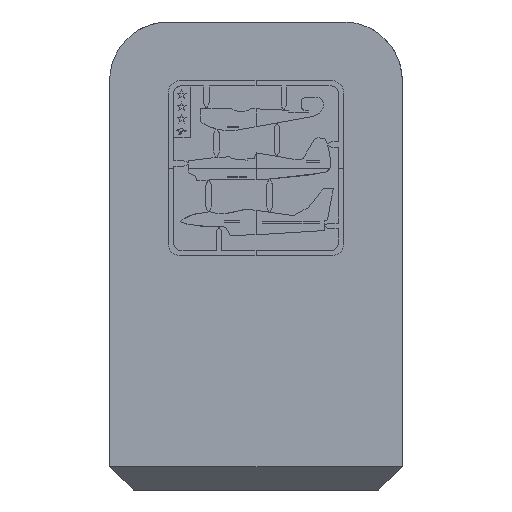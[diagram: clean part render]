
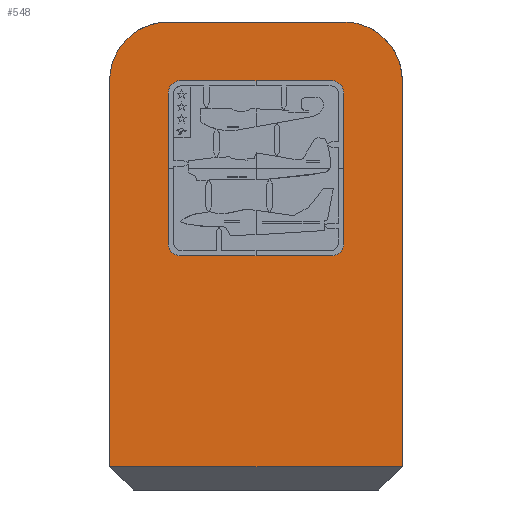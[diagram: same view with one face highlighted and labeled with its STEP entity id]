
A CAD part, left-side view. The second image highlights one B-rep face of the part: STEP entity #548.
In plain terms, the highlighted planar face has unit normal (-1, 0, 0).
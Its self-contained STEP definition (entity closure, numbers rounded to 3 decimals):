
#37=FACE_BOUND('',#2376,.T.);
#548=ADVANCED_FACE('',(#1450,#37),#14974,.T.);
#1450=FACE_OUTER_BOUND('',#2375,.T.);
#2375=EDGE_LOOP('',(#5486,#5487,#5488,#5489,#5490,#5491));
#2376=EDGE_LOOP('',(#5492,#5493,#5494,#5495,#5496,#5497,#5498,#5499,#5500,
#5501,#5502,#5503));
#5486=ORIENTED_EDGE('',*,*,#9088,.T.);
#5487=ORIENTED_EDGE('',*,*,#9089,.T.);
#5488=ORIENTED_EDGE('',*,*,#9051,.T.);
#5489=ORIENTED_EDGE('',*,*,#9043,.T.);
#5490=ORIENTED_EDGE('',*,*,#9053,.T.);
#5491=ORIENTED_EDGE('',*,*,#9045,.T.);
#5492=ORIENTED_EDGE('',*,*,#8510,.T.);
#5493=ORIENTED_EDGE('',*,*,#8938,.F.);
#5494=ORIENTED_EDGE('',*,*,#8923,.F.);
#5495=ORIENTED_EDGE('',*,*,#8924,.F.);
#5496=ORIENTED_EDGE('',*,*,#8695,.T.);
#5497=ORIENTED_EDGE('',*,*,#8723,.T.);
#5498=ORIENTED_EDGE('',*,*,#8722,.T.);
#5499=ORIENTED_EDGE('',*,*,#8833,.F.);
#5500=ORIENTED_EDGE('',*,*,#8804,.F.);
#5501=ORIENTED_EDGE('',*,*,#8805,.F.);
#5502=ORIENTED_EDGE('',*,*,#8488,.T.);
#5503=ORIENTED_EDGE('',*,*,#8487,.T.);
#8487=EDGE_CURVE('',#13149,#13150,#10889,.T.);
#8488=EDGE_CURVE('',#13244,#13149,#10890,.T.);
#8510=EDGE_CURVE('',#13150,#13234,#10912,.T.);
#8695=EDGE_CURVE('',#13318,#13274,#11073,.T.);
#8722=EDGE_CURVE('',#13298,#13308,#11100,.T.);
#8723=EDGE_CURVE('',#13274,#13298,#11101,.T.);
#8804=EDGE_CURVE('',#13353,#13354,#11182,.T.);
#8805=EDGE_CURVE('',#13244,#13353,#11183,.T.);
#8833=EDGE_CURVE('',#13354,#13308,#11211,.T.);
#8923=EDGE_CURVE('',#13429,#13430,#11301,.T.);
#8924=EDGE_CURVE('',#13318,#13429,#11302,.T.);
#8938=EDGE_CURVE('',#13430,#13234,#11316,.T.);
#9043=EDGE_CURVE('',#13496,#13495,#11421,.T.);
#9045=EDGE_CURVE('',#13498,#13523,#11423,.T.);
#9051=EDGE_CURVE('',#13492,#13496,#12135,.T.);
#9053=EDGE_CURVE('',#13495,#13498,#12137,.T.);
#9088=EDGE_CURVE('',#13523,#13527,#11461,.T.);
#9089=EDGE_CURVE('',#13527,#13492,#11462,.T.);
#10889=B_SPLINE_CURVE_WITH_KNOTS('',3,(#26299,#26300,#26301,#26302),
 .UNSPECIFIED.,.F.,.F.,(4,4),(666.796,667.796),
 .UNSPECIFIED.);
#10890=B_SPLINE_CURVE_WITH_KNOTS('',3,(#26303,#26304,#26305,#26306),
 .UNSPECIFIED.,.F.,.F.,(4,4),(569.851,666.796),
 .UNSPECIFIED.);
#10912=B_SPLINE_CURVE_WITH_KNOTS('',3,(#26394,#26395,#26396,#26397),
 .UNSPECIFIED.,.F.,.F.,(4,4),(97.945,194.89),.UNSPECIFIED.);
#11073=B_SPLINE_CURVE_WITH_KNOTS('',3,(#27269,#27270,#27271,#27272),
 .UNSPECIFIED.,.F.,.F.,(4,4),(807.847,904.792),
 .UNSPECIFIED.);
#11100=B_SPLINE_CURVE_WITH_KNOTS('',3,(#27383,#27384,#27385,#27386),
 .UNSPECIFIED.,.F.,.F.,(4,4),(105.032,201.977),.UNSPECIFIED.);
#11101=B_SPLINE_CURVE_WITH_KNOTS('',3,(#27387,#27388,#27389,#27390),
 .UNSPECIFIED.,.F.,.F.,(4,4),(104.032,105.032),.UNSPECIFIED.);
#11182=B_SPLINE_CURVE_WITH_KNOTS('',3,(#27627,#27628,#27629,#27630),
 .UNSPECIFIED.,.F.,.F.,(4,4),(-105.032,-104.032),.UNSPECIFIED.);
#11183=B_SPLINE_CURVE_WITH_KNOTS('',3,(#27631,#27632,#27633,#27634),
 .UNSPECIFIED.,.F.,.F.,(4,4),(-201.976,-105.032),.UNSPECIFIED.);
#11211=B_SPLINE_CURVE_WITH_KNOTS('',3,(#27755,#27756,#27757,#27758),
 .UNSPECIFIED.,.F.,.F.,(4,4),(-791.803,-694.858),
 .UNSPECIFIED.);
#11301=B_SPLINE_CURVE_WITH_KNOTS('',3,(#28032,#28033,#28034,#28035),
 .UNSPECIFIED.,.F.,.F.,(4,4),(-105.032,-104.032),.UNSPECIFIED.);
#11302=B_SPLINE_CURVE_WITH_KNOTS('',3,(#28036,#28037,#28038,#28039),
 .UNSPECIFIED.,.F.,.F.,(4,4),(-201.977,-105.032),.UNSPECIFIED.);
#11316=B_SPLINE_CURVE_WITH_KNOTS('',3,(#28095,#28096,#28097,#28098),
 .UNSPECIFIED.,.F.,.F.,(4,4),(-667.399,-570.454),
 .UNSPECIFIED.);
#11421=B_SPLINE_CURVE_WITH_KNOTS('',1,(#28379,#28380),.UNSPECIFIED.,.F.,
 .F.,(2,2),(16.,19.),.UNSPECIFIED.);
#11423=B_SPLINE_CURVE_WITH_KNOTS('',1,(#28383,#28384),.UNSPECIFIED.,.F.,
 .F.,(2,2),(21.,27.6),.UNSPECIFIED.);
#11461=B_SPLINE_CURVE_WITH_KNOTS('',1,(#28476,#28477),.UNSPECIFIED.,.F.,
 .F.,(2,2),(0.,5.),.UNSPECIFIED.);
#11462=B_SPLINE_CURVE_WITH_KNOTS('',1,(#28478,#28479),.UNSPECIFIED.,.F.,
 .F.,(2,2),(7.4,14.),.UNSPECIFIED.);
#12135=(
BOUNDED_CURVE()
B_SPLINE_CURVE(2,(#28396,#28397,#28398),.UNSPECIFIED.,.F.,.F.)
B_SPLINE_CURVE_WITH_KNOTS((3,3),(0.,1.571),.UNSPECIFIED.)
CURVE()
GEOMETRIC_REPRESENTATION_ITEM()
RATIONAL_B_SPLINE_CURVE((1.,0.707,1.))
REPRESENTATION_ITEM('')
);
#12137=(
BOUNDED_CURVE()
B_SPLINE_CURVE(2,(#28402,#28403,#28404),.UNSPECIFIED.,.F.,.F.)
B_SPLINE_CURVE_WITH_KNOTS((3,3),(0.,1.571),.UNSPECIFIED.)
CURVE()
GEOMETRIC_REPRESENTATION_ITEM()
RATIONAL_B_SPLINE_CURVE((1.,0.707,1.))
REPRESENTATION_ITEM('')
);
#13149=VERTEX_POINT('',#21754);
#13150=VERTEX_POINT('',#21755);
#13234=VERTEX_POINT('',#21839);
#13244=VERTEX_POINT('',#21849);
#13274=VERTEX_POINT('',#21879);
#13298=VERTEX_POINT('',#21903);
#13308=VERTEX_POINT('',#21913);
#13318=VERTEX_POINT('',#21923);
#13353=VERTEX_POINT('',#21958);
#13354=VERTEX_POINT('',#21959);
#13429=VERTEX_POINT('',#22034);
#13430=VERTEX_POINT('',#22035);
#13492=VERTEX_POINT('',#22097);
#13495=VERTEX_POINT('',#22100);
#13496=VERTEX_POINT('',#22101);
#13498=VERTEX_POINT('',#22103);
#13523=VERTEX_POINT('',#22128);
#13527=VERTEX_POINT('',#22132);
#14974=PLANE('',#15696);
#15696=AXIS2_PLACEMENT_3D('',#20329,#16388,$);
#16388=DIRECTION('',(-1.,0.,0.));
#20329=CARTESIAN_POINT('',(-13.3,2.5,-2.));
#21754=CARTESIAN_POINT('',(-13.3,1.5,6.782));
#21755=CARTESIAN_POINT('',(-13.3,1.282,7.));
#21839=CARTESIAN_POINT('',(-13.3,0.,7.));
#21849=CARTESIAN_POINT('',(-13.3,1.5,5.5));
#21879=CARTESIAN_POINT('',(-13.3,-1.5,4.217));
#21903=CARTESIAN_POINT('',(-13.3,-1.283,4.));
#21913=CARTESIAN_POINT('',(-13.3,0.,4.));
#21923=CARTESIAN_POINT('',(-13.3,-1.5,5.5));
#21958=CARTESIAN_POINT('',(-13.3,1.5,4.217));
#21959=CARTESIAN_POINT('',(-13.3,1.282,4.));
#22034=CARTESIAN_POINT('',(-13.3,-1.5,6.782));
#22035=CARTESIAN_POINT('',(-13.3,-1.283,7.));
#22097=CARTESIAN_POINT('',(-13.3,-2.5,7.));
#22100=CARTESIAN_POINT('',(-13.3,1.5,8.));
#22101=CARTESIAN_POINT('',(-13.3,-1.5,8.));
#22103=CARTESIAN_POINT('',(-13.3,2.5,7.));
#22128=CARTESIAN_POINT('',(-13.3,2.5,0.4));
#22132=CARTESIAN_POINT('',(-13.3,-2.5,0.4));
#26299=CARTESIAN_POINT('',(-13.3,1.5,6.782));
#26300=CARTESIAN_POINT('',(-13.3,1.5,6.902));
#26301=CARTESIAN_POINT('',(-13.3,1.402,7.));
#26302=CARTESIAN_POINT('',(-13.3,1.282,7.));
#26303=CARTESIAN_POINT('',(-13.3,1.5,5.5));
#26304=CARTESIAN_POINT('',(-13.3,1.5,5.927));
#26305=CARTESIAN_POINT('',(-13.3,1.5,6.355));
#26306=CARTESIAN_POINT('',(-13.3,1.5,6.782));
#26394=CARTESIAN_POINT('',(-13.3,1.282,7.));
#26395=CARTESIAN_POINT('',(-13.3,0.855,7.));
#26396=CARTESIAN_POINT('',(-13.3,0.427,7.));
#26397=CARTESIAN_POINT('',(-13.3,0.,7.));
#27269=CARTESIAN_POINT('',(-13.3,-1.5,5.5));
#27270=CARTESIAN_POINT('',(-13.3,-1.5,5.072));
#27271=CARTESIAN_POINT('',(-13.3,-1.5,4.645));
#27272=CARTESIAN_POINT('',(-13.3,-1.5,4.217));
#27383=CARTESIAN_POINT('',(-13.3,-1.283,4.));
#27384=CARTESIAN_POINT('',(-13.3,-0.855,4.));
#27385=CARTESIAN_POINT('',(-13.3,-0.428,4.));
#27386=CARTESIAN_POINT('',(-13.3,0.,4.));
#27387=CARTESIAN_POINT('',(-13.3,-1.5,4.217));
#27388=CARTESIAN_POINT('',(-13.3,-1.5,4.098));
#27389=CARTESIAN_POINT('',(-13.3,-1.402,4.));
#27390=CARTESIAN_POINT('',(-13.3,-1.283,4.));
#27627=CARTESIAN_POINT('',(-13.3,1.5,4.217));
#27628=CARTESIAN_POINT('',(-13.3,1.5,4.098));
#27629=CARTESIAN_POINT('',(-13.3,1.402,4.));
#27630=CARTESIAN_POINT('',(-13.3,1.282,4.));
#27631=CARTESIAN_POINT('',(-13.3,1.5,5.5));
#27632=CARTESIAN_POINT('',(-13.3,1.5,5.072));
#27633=CARTESIAN_POINT('',(-13.3,1.5,4.645));
#27634=CARTESIAN_POINT('',(-13.3,1.5,4.217));
#27755=CARTESIAN_POINT('',(-13.3,1.282,4.));
#27756=CARTESIAN_POINT('',(-13.3,0.855,4.));
#27757=CARTESIAN_POINT('',(-13.3,0.427,4.));
#27758=CARTESIAN_POINT('',(-13.3,0.,4.));
#28032=CARTESIAN_POINT('',(-13.3,-1.5,6.782));
#28033=CARTESIAN_POINT('',(-13.3,-1.5,6.902));
#28034=CARTESIAN_POINT('',(-13.3,-1.402,7.));
#28035=CARTESIAN_POINT('',(-13.3,-1.283,7.));
#28036=CARTESIAN_POINT('',(-13.3,-1.5,5.5));
#28037=CARTESIAN_POINT('',(-13.3,-1.5,5.927));
#28038=CARTESIAN_POINT('',(-13.3,-1.5,6.355));
#28039=CARTESIAN_POINT('',(-13.3,-1.5,6.782));
#28095=CARTESIAN_POINT('',(-13.3,-1.283,7.));
#28096=CARTESIAN_POINT('',(-13.3,-0.855,7.));
#28097=CARTESIAN_POINT('',(-13.3,-0.428,7.));
#28098=CARTESIAN_POINT('',(-13.3,0.,7.));
#28379=CARTESIAN_POINT('',(-13.3,-1.5,8.));
#28380=CARTESIAN_POINT('',(-13.3,1.5,8.));
#28383=CARTESIAN_POINT('',(-13.3,2.5,7.));
#28384=CARTESIAN_POINT('',(-13.3,2.5,0.4));
#28396=CARTESIAN_POINT('',(-13.3,-2.5,7.));
#28397=CARTESIAN_POINT('',(-13.3,-2.5,8.));
#28398=CARTESIAN_POINT('',(-13.3,-1.5,8.));
#28402=CARTESIAN_POINT('',(-13.3,1.5,8.));
#28403=CARTESIAN_POINT('',(-13.3,2.5,8.));
#28404=CARTESIAN_POINT('',(-13.3,2.5,7.));
#28476=CARTESIAN_POINT('',(-13.3,2.5,0.4));
#28477=CARTESIAN_POINT('',(-13.3,-2.5,0.4));
#28478=CARTESIAN_POINT('',(-13.3,-2.5,0.4));
#28479=CARTESIAN_POINT('',(-13.3,-2.5,7.));
